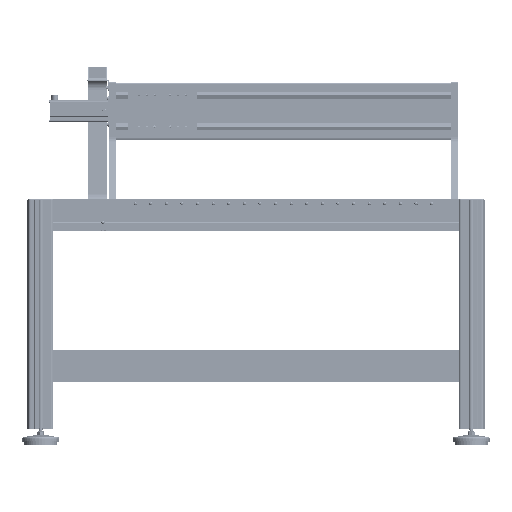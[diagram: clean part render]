
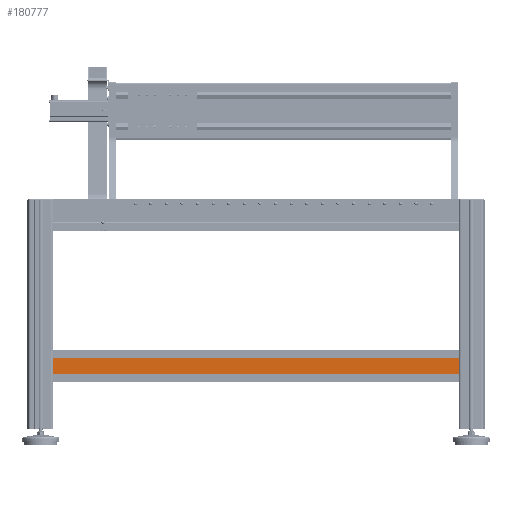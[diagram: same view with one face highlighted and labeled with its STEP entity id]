
A CAD part, top view. The second image highlights one B-rep face of the part: STEP entity #180777.
In plain terms, the highlighted planar face has unit normal (0, 0, 1).
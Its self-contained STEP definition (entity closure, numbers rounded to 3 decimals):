
#776 = AXIS2_PLACEMENT_3D ( 'NONE', #79217, #439759, #199782 ) ;
#63826 = CARTESIAN_POINT ( 'NONE',  ( 650., -429.7, 691. ) ) ;
#68668 = ORIENTED_EDGE ( 'NONE', *, *, #414023, .F. ) ;
#79217 = CARTESIAN_POINT ( 'NONE',  ( 650., -355., 691. ) ) ;
#104069 = DIRECTION ( 'NONE',  ( -1., 0., 0. ) ) ;
#104101 = VERTEX_POINT ( 'NONE', #107763 ) ;
#107763 = CARTESIAN_POINT ( 'NONE',  ( -650., -380.3, 691. ) ) ;
#118473 = ORIENTED_EDGE ( 'NONE', *, *, #145778, .T. ) ;
#145778 = EDGE_CURVE ( 'NONE', #364745, #423028, #261950, .T. ) ;
#180777 = ADVANCED_FACE ( 'NONE', ( #331305 ), #359256, .T. ) ;
#199782 = DIRECTION ( 'NONE',  ( -1., 0., 0. ) ) ;
#200097 = CARTESIAN_POINT ( 'NONE',  ( 650., -355., 691. ) ) ;
#204309 = VECTOR ( 'NONE', #315249, 1000. ) ;
#204396 = LINE ( 'NONE', #274958, #204309 ) ;
#209202 = EDGE_CURVE ( 'NONE', #454617, #104101, #313061, .T. ) ;
#220969 = ORIENTED_EDGE ( 'NONE', *, *, #267659, .T. ) ;
#247657 = EDGE_LOOP ( 'NONE', ( #68668, #118473, #220969, #268967 ) ) ;
#258570 = CARTESIAN_POINT ( 'NONE',  ( -650., -429.7, 691. ) ) ;
#260519 = VECTOR ( 'NONE', #440049, 1000. ) ;
#261950 = LINE ( 'NONE', #200097, #260519 ) ;
#267659 = EDGE_CURVE ( 'NONE', #423028, #104101, #204396, .T. ) ;
#268967 = ORIENTED_EDGE ( 'NONE', *, *, #209202, .F. ) ;
#274958 = CARTESIAN_POINT ( 'NONE',  ( 650., -380.3, 691. ) ) ;
#312091 = VECTOR ( 'NONE', #314752, 1000. ) ;
#313061 = LINE ( 'NONE', #514108, #312091 ) ;
#314752 = DIRECTION ( 'NONE',  ( 0., 1., 0. ) ) ;
#315249 = DIRECTION ( 'NONE',  ( -1., 0., 0. ) ) ;
#327307 = VECTOR ( 'NONE', #104069, 1000. ) ;
#328691 = LINE ( 'NONE', #63826, #327307 ) ;
#331305 = FACE_OUTER_BOUND ( 'NONE', #247657, .T. ) ;
#354311 = CARTESIAN_POINT ( 'NONE',  ( 650., -429.7, 691. ) ) ;
#359256 = PLANE ( 'NONE',  #776 ) ;
#364745 = VERTEX_POINT ( 'NONE', #354311 ) ;
#414023 = EDGE_CURVE ( 'NONE', #364745, #454617, #328691, .T. ) ;
#423028 = VERTEX_POINT ( 'NONE', #463290 ) ;
#439759 = DIRECTION ( 'NONE',  ( 0., 0., 1. ) ) ;
#440049 = DIRECTION ( 'NONE',  ( 0., 1., 0. ) ) ;
#454617 = VERTEX_POINT ( 'NONE', #258570 ) ;
#463290 = CARTESIAN_POINT ( 'NONE',  ( 650., -380.3, 691. ) ) ;
#514108 = CARTESIAN_POINT ( 'NONE',  ( -650., -355., 691. ) ) ;
